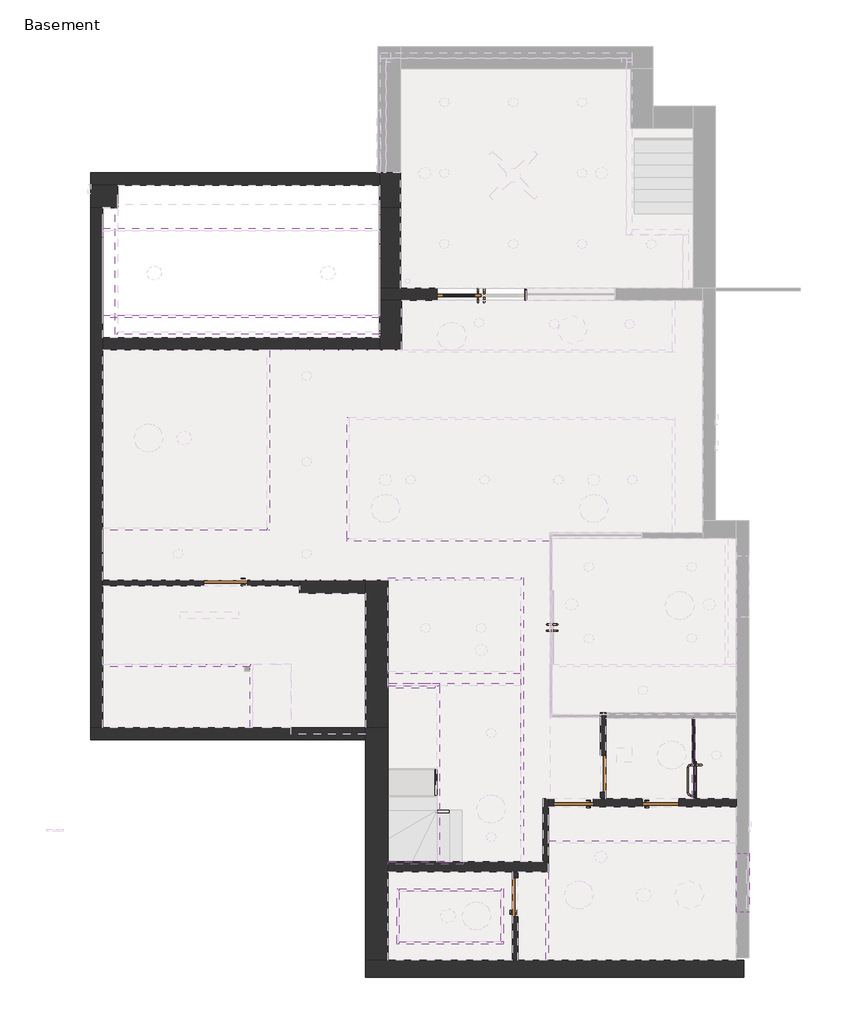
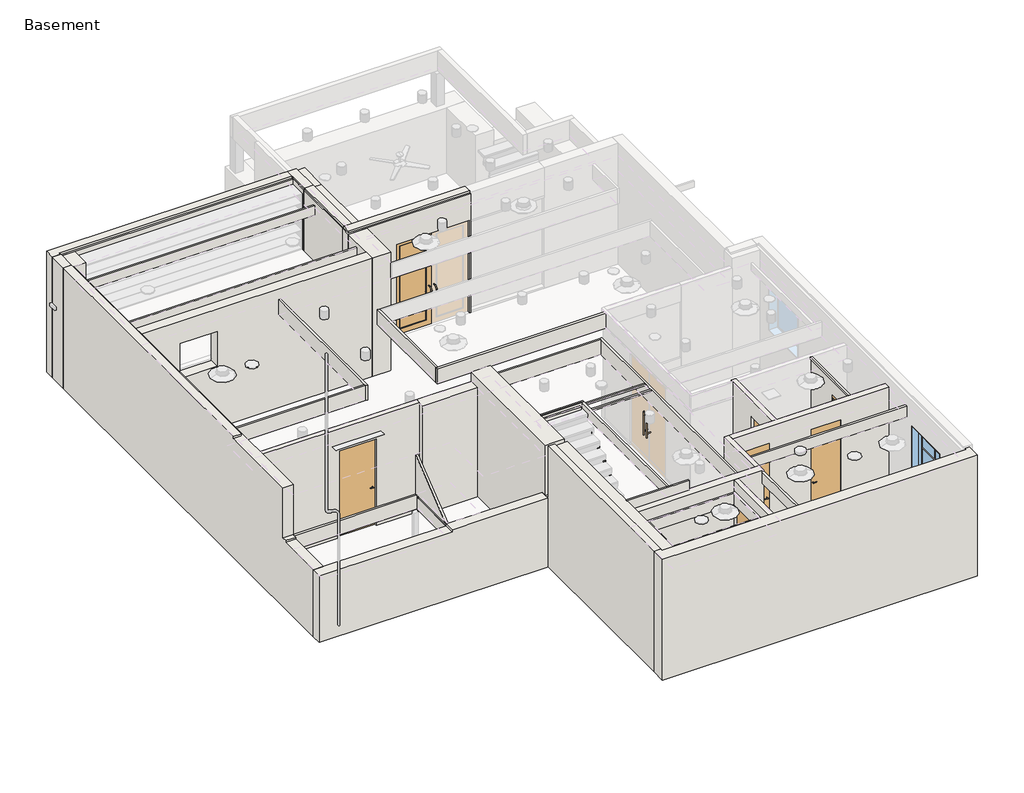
# One storey, part 1 of 3: 48 walls, 14 doors, 1 window.
"""IFC4 building model written with IfcOpenShell, lengths in millimetres."""

from ifc_helpers import new_model, si_unit, frame, origin, place, context, project, spatial, polyline, outline, extrude, faceted_brep, transform, mapped, element, save
from components import door_63bbe5dc, door_de97ecf0, door_99daa36c, door_6469e1a2, door_98445883, door_f5256737, door_7e50a88c, door_ffea6ccb, door_1882726e, door_de8d7ad8, door_d809778b, door_ac8b4fe6, default_1_a765227e

model = new_model("IFC4")

# Units and contexts
model_context = context("Model", 3, world=origin())
ifc_project = project(units=[si_unit("LENGTHUNIT", "METRE", prefix="MILLI")], contexts=[model_context])

# Site, building, storey
site = spatial("IfcSite", under=ifc_project)
building = spatial("IfcBuilding", under=site)
storey = spatial("IfcBuildingStorey", under=building, Name="Basement", Elevation=-3175.0)

# Doors
placement = place(None, origin())
door_shape = door_63bbe5dc(model_context)
element("IfcDoor", 1, ObjectType="Planitar - Swap_Flush Panel : Planitar - Swap_Flush Panel", at=placement, inside=storey, context=model_context, shape_type="MappedRepresentation", body=[
    mapped(door_shape, transform((16812.5017773, 865.0979214, -3175.0), x_axis=(0.0, 1.0, 0.0), y_axis=(-1.0, 0.0, 0.0), z_axis=(0.0, 0.0, 1.0))),
])
element("IfcDoor", 2, ObjectType="Planitar - Swap_Flush Panel : Planitar - Swap_Flush Panel", at=placement, inside=storey, context=model_context, shape_type="MappedRepresentation", body=[
    mapped(door_shape, transform((18050.7517773, 2799.0909405, -3175.0), x_axis=(-1.0, 0.0, 0.0), y_axis=(0.0, -1.0, 0.0), z_axis=(0.0, 0.0, 1.0))),
])
door_2_shape = door_de97ecf0(model_context)
element("IfcDoor", 3, ObjectType="Planitar - Swap_Flush Panel : Planitar - Swap_Flush Panel", at=placement, inside=storey, context=model_context, shape_type="MappedRepresentation", body=[
    mapped(door_2_shape, transform((19854.1517773, 2799.0909405, -3175.0), x_axis=(1.0, 0.0, 0.0), y_axis=(0.0, 1.0, 0.0), z_axis=(0.0, 0.0, 1.0))),
])
door_3_shape = door_99daa36c(model_context)
element("IfcDoor", 4, ObjectType="Planitar - Swap_Flush Panel : Planitar - Swap_Flush Panel", at=placement, inside=storey, context=model_context, shape_type="MappedRepresentation", body=[
    mapped(door_3_shape, transform((18692.1017773, 3421.3909405, -3175.0), x_axis=(0.0, -1.0, 0.0), y_axis=(1.0, 0.0, 0.0), z_axis=(0.0, 0.0, 1.0))),
])
door_4_shape = door_6469e1a2(model_context)
element("IfcDoor", 5, ObjectType="Planitar - Swap_Full Glass_Panel_D2 : Planitar - Swap_Full Glass_Panel_D2", at=placement, inside=storey, context=model_context, shape_type="MappedRepresentation", body=[
    mapped(door_4_shape, transform((20565.3517773, 3288.0409405, -3175.0), x_axis=(0.0, -1.0, 0.0), y_axis=(1.0, 0.0, 0.0), z_axis=(0.0, 0.0, 1.0))),
])
door_5_shape = door_98445883(model_context)
element("IfcDoor", 6, ObjectType="Planitar - Swap_Flush Panel : Planitar - Swap_Flush Panel", at=placement, inside=storey, context=model_context, shape_type="MappedRepresentation", body=[
    mapped(door_5_shape, transform((10843.5017773, 7396.4909405, -3175.0), x_axis=(-1.0, 0.0, 0.0), y_axis=(0.0, -1.0, 0.0), z_axis=(0.0, 0.0, 1.0))),
])
door_6_shape = door_f5256737(model_context)
element("IfcDoor", 7, ObjectType="Planitar - Swap_Full Glass_Panel : Planitar - Swap_Full Glass_Panel", at=placement, inside=storey, context=model_context, shape_type="MappedRepresentation", body=[
    mapped(door_6_shape, transform((15675.8517773, 13327.3909405, -3175.0), x_axis=(-1.0, 0.0, 0.0), y_axis=(0.0, -1.0, 0.0), z_axis=(0.0, 0.0, 1.0))),
])
door_7_shape = door_7e50a88c(model_context)
element("IfcDoor", 8, ObjectType="Planitar - Single Door_Swapper : 7'-6\" x 3'-0\"", at=placement, inside=storey, context=model_context, shape_type="MappedRepresentation", body=[
    mapped(door_7_shape, transform((10843.5017773, 7371.0909405, -3175.0), x_axis=(-1.0, 0.0, 0.0), y_axis=(0.0, -1.0, 0.0), z_axis=(0.0, 0.0, 1.0))),
])
door_8_shape = door_ffea6ccb(model_context)
element("IfcDoor", 9, ObjectType="Planitar - Single Door_Swapper : 8'-0\" x 2'-6\"", at=placement, inside=storey, context=model_context, shape_type="MappedRepresentation", body=[
    mapped(door_8_shape, transform((19854.1517773, 2824.4909405, -3175.0), x_axis=(1.0, 0.0, 0.0), y_axis=(0.0, 1.0, 0.0), z_axis=(0.0, 0.0, 1.0))),
])
door_9_shape = door_1882726e(model_context)
element("IfcDoor", 10, ObjectType="Planitar - Single Door_Swapper : 8'-0\" x 2'-6\"", at=placement, inside=storey, context=model_context, shape_type="MappedRepresentation", body=[
    mapped(door_9_shape, transform((20539.9517773, 3288.0409405, -3175.0), x_axis=(0.0, -1.0, 0.0), y_axis=(1.0, 0.0, 0.0), z_axis=(0.0, 0.0, 1.0))),
])
door_10_shape = door_de8d7ad8(model_context)
element("IfcDoor", 11, ObjectType="Planitar - Single Door_Swapper : 8'-0\" x 2'-8\"", at=placement, inside=storey, context=model_context, shape_type="MappedRepresentation", body=[
    mapped(door_10_shape, transform((18050.7517773, 2824.4909405, -3175.0), x_axis=(-1.0, 0.0, 0.0), y_axis=(0.0, -1.0, 0.0), z_axis=(0.0, 0.0, 1.0))),
])
element("IfcDoor", 12, ObjectType="Planitar - Single Door_Swapper : 8'-0\" x 2'-8\"", at=placement, inside=storey, context=model_context, shape_type="MappedRepresentation", body=[
    mapped(door_10_shape, transform((16837.9017773, 865.0979214, -3175.0), x_axis=(0.0, 1.0, 0.0), y_axis=(-1.0, 0.0, 0.0), z_axis=(0.0, 0.0, 1.0))),
])
door_11_shape = door_d809778b(model_context)
element("IfcDoor", 13, ObjectType="Planitar -Double Door_Swapper : 8'-0\" x 5'-0\"", at=placement, inside=storey, context=model_context, shape_type="MappedRepresentation", body=[
    mapped(door_11_shape, transform((17580.8517773, 5840.7409405, -3175.0), x_axis=(0.0, -1.0, 0.0), y_axis=(1.0, 0.0, 0.0), z_axis=(0.0, 0.0, 1.0))),
])
door_12_shape = door_ac8b4fe6(model_context)
element("IfcDoor", 14, ObjectType="Planitar -Double Door_Swapper : 8'-0\" x 6'-0\"", at=placement, inside=storey, context=model_context, shape_type="MappedRepresentation", body=[
    mapped(door_12_shape, transform((15523.4517773, 13352.7909405, -3175.0), x_axis=(-1.0, 0.0, 0.0), y_axis=(0.0, -1.0, 0.0), z_axis=(0.0, 0.0, 1.0))),
])

# Walls
element("IfcWall", 15, ObjectType="Planitar - Generic 1' - 2\"", at=placement, inside=storey, context=model_context, shape_type="Brep", body=[
    faceted_brep([(21574.9049773, -439.4090595, -3175.0), (21549.6017773, -439.4090595, -3175.0), (16895.0517773, -439.4090595, -3175.0), (16780.7517773, -439.4090595, -3175.0), (14208.8081773, -439.4090595, -3175.0), (13738.9081773, -439.4090595, -3175.0), (13738.9081773, -439.4090595, 0.0), (13904.0081773, -439.4090595, 0.0), (13904.0081773, -439.4090595, -50.8), (14208.8081773, -439.4090595, -50.8), (21473.3049773, -439.4090595, -50.8), (21473.3049773, -439.4090595, 0.0), (21549.6017773, -439.4090595, 0.0), (21574.9049773, -439.4090595, 0.0), (13738.9081773, -795.0090595, -3175.0), (21574.9049773, -795.0090595, -3175.0), (21574.9049773, -795.0090595, 0.0), (21473.3049773, -795.0090595, 0.0), (16459.0569509, -795.0090595, 0.0), (14985.8569509, -795.0090595, 0.0), (13738.9081773, -795.0090595, 0.0), (21473.3049773, -490.2090595, 0.0), (13904.0081773, -490.2090595, 0.0), (13738.9081773, -490.2090595, 0.0), (13904.0081773, -490.2090595, -50.8), (21473.3049773, -490.2090595, -50.8)], [[[0, 1, 2, 3, 4, 5, 6, 7, 8, 9, 10, 11, 12, 13]], [[14, 15, 16, 17, 18, 19, 20]], [[5, 4, 3, 2, 1, 0, 15, 14]], [[20, 19, 18, 17, 16, 13, 12, 11, 21, 22, 7, 6, 23]], [[0, 13, 16, 15]], [[5, 14, 20, 23, 6]], [[24, 25, 10, 9, 8]], [[25, 24, 22, 21]], [[22, 24, 8, 7]], [[25, 21, 11, 10]]]),
])
element("IfcWall", 16, ObjectType="Planitar - Generic 1' - 6 1/2\"", at=placement, inside=storey, context=model_context, shape_type="Brep", body=[
    faceted_brep([(14208.8081773, -439.4090595, -3175.0), (14208.8081773, 1395.7409405, -3175.0), (14208.8081773, 1598.9409405, -3175.0), (14208.8081773, 4380.2409405, -3175.0), (14208.8081773, 4380.2409405, -1371.6), (14208.8081773, 4240.5409405, -1371.6), (14208.8081773, 4126.2409405, -1371.6), (14208.8081773, 4126.2409405, -50.8), (14208.8081773, -439.4090595, -50.8), (13738.9081773, 4380.2409405, -3175.0), (13738.9081773, 4126.2409405, -3175.0), (13738.9081773, -439.4090595, -3175.0), (13738.9081773, -439.4090595, 0.0), (13738.9081773, 4126.2409405, 0.0), (13738.9081773, 4126.2409405, -1371.6), (13738.9081773, 4240.5409405, -1371.6), (13738.9081773, 4380.2409405, -1371.6), (13904.0081773, -439.4090595, 0.0), (13904.0081773, 4126.2409405, 0.0), (13904.0081773, -439.4090595, -50.8), (13904.0081773, 4126.2409405, -50.8)], [[[0, 1, 2, 3, 4, 5, 6, 7, 8]], [[9, 10, 11, 12, 13, 14, 15, 16]], [[3, 2, 1, 0, 11, 10, 9]], [[13, 12, 17, 18]], [[11, 0, 8, 19, 17, 12]], [[6, 5, 4, 16, 15, 14]], [[6, 14, 13, 18, 20, 7]], [[4, 3, 9, 16]], [[20, 19, 8, 7]], [[19, 20, 18, 17]]]),
])
element("IfcWall", 17, ObjectType="Planitar - Generic 10\"", at=placement, inside=storey, context=model_context, shape_type="Brep", body=[
    faceted_brep([(8043.1517773, 4126.2409405, -3175.0), (13738.9081773, 4126.2409405, -3175.0), (13738.9081773, 4126.2409405, -1422.4), (13738.9081773, 4126.2409405, -1371.6), (12086.5517773, 4126.2409405, -1371.6), (11349.9517773, 4126.2409405, -1371.6), (11349.9517773, 4126.2409405, -1422.4), (8043.1517773, 4126.2409405, -1422.4), (13738.9081773, 4380.2409405, -3175.0), (8297.1517773, 4380.2409405, -3175.0), (8043.1517773, 4380.2409405, -3175.0), (8043.1517773, 4380.2409405, -1422.4), (8297.1517773, 4380.2409405, -1422.4), (11349.9517773, 4380.2409405, -1422.4), (11349.9517773, 4380.2409405, -1371.6), (13738.9081773, 4380.2409405, -1371.6)], [[[0, 1, 2, 3, 4, 5, 6, 7]], [[8, 9, 10, 11, 12, 13, 14, 15]], [[1, 0, 10, 9, 8]], [[3, 15, 14, 5, 4]], [[10, 0, 7, 11]], [[1, 8, 15, 3, 2]], [[6, 13, 12, 11, 7]], [[13, 6, 5, 14]]]),
])
element("IfcWall", 18, ObjectType="Planitar - Generic 1' - 5\"", at=placement, inside=storey, context=model_context, shape_type="SweptSolid", body=[
    extrude(outline(polyline([(-3175.0, 14027.2174773), (-3175.0, 14459.0174773), (-50.8, 14459.0174773), (-50.8, 14253.4517773), (0.0, 14253.4517773), (0.0, 14050.2517773), (-50.8, 14050.2517773), (-50.8, 14027.2174773), (-3175.0, 14027.2174773)])), frame((0.0, 13479.7909405, 0.0), z_axis=(0.0, 1.0, 0.0), x_axis=(0.0, 0.0, 1.0)), (0.0, 0.0, 1.0), 1664.5554),
])
element("IfcWall", 19, ObjectType="Planitar - Generic 10\"", at=placement, inside=storey, context=model_context, shape_type="Brep", body=[
    faceted_brep([(14027.2174773, 15867.3909405, -3175.0), (14001.8174773, 15867.3909405, -3175.0), (8043.1517773, 15867.3909405, -3175.0), (8043.1517773, 15867.3909405, 0.0), (13974.0517773, 15867.3909405, 0.0), (14027.2174773, 15867.3909405, 0.0), (8043.1517773, 15613.3909405, -3175.0), (8601.9517773, 15613.3909405, -3175.0), (14027.2174773, 15613.3909405, -3175.0), (14027.2174773, 15613.3909405, -50.8), (8601.9517773, 15613.3909405, -50.8), (8246.2549773, 15613.3909405, -50.8), (8246.2549773, 15613.3909405, 0.0), (8043.1517773, 15613.3909405, 0.0), (8246.2549773, 15664.1909405, 0.0), (14027.2174773, 15664.1909405, 0.0), (14027.2174773, 15664.1909405, -50.8), (8246.2549773, 15664.1909405, -50.8)], [[[0, 1, 2, 3, 4, 5]], [[6, 7, 8, 9, 10, 11, 12, 13]], [[2, 1, 0, 8, 7, 6]], [[5, 4, 3, 13, 12, 14, 15]], [[3, 2, 6, 13]], [[16, 17, 11, 10, 9]], [[17, 14, 12, 11]], [[14, 17, 16, 15]], [[8, 0, 5, 15, 16, 9]]]),
])
element("IfcWall", 20, ObjectType="Planitar - Generic 1' - 10\"", at=placement, inside=storey, context=model_context, shape_type="Brep", body=[
    faceted_brep([(8043.1517773, 15613.3909405, -3175.0), (8043.1517773, 15144.3463405, -3175.0), (8043.1517773, 15144.3463405, 0.0), (8043.1517773, 15613.3909405, 0.0), (8601.9517773, 15144.3463405, -3175.0), (8601.9517773, 15613.3909405, -3175.0), (8601.9517773, 15613.3909405, -50.8), (8601.9517773, 15144.3463405, -50.8), (8297.1517773, 15144.3463405, -3175.0), (8297.1517773, 15144.3463405, -50.8), (8246.2549773, 15144.3463405, -50.8), (8246.2549773, 15144.3463405, 0.0), (8246.2549773, 15613.3909405, 0.0), (8246.2549773, 15613.3909405, -50.8)], [[[0, 1, 2, 3]], [[4, 5, 6, 7]], [[1, 0, 5, 4, 8]], [[2, 1, 8, 4, 7, 9, 10, 11]], [[3, 2, 11, 12]], [[0, 3, 12, 13, 6, 5]], [[13, 10, 9, 7, 6]], [[10, 13, 12, 11]]]),
])
element("IfcWall", 21, ObjectType="Planitar - Generic 4 1/2\"", at=placement, inside=storey, context=model_context, shape_type="SweptSolid", body=[
    extrude(outline(polyline([(-3175.0, 12373.8517773), (-304.8, 12373.8517773), (-304.8, 8297.1517773), (-3175.0, 8297.1517773), (-3175.0, 10386.3017773), (-889.0, 10386.3017773), (-889.0, 11300.7017773), (-3175.0, 11300.7017773), (-3175.0, 12373.8517773)])), frame((0.0, 7313.9409405, 0.0), z_axis=(0.0, 1.0, 0.0), x_axis=(0.0, 0.0, 1.0)), (0.0, 0.0, 1.0), 114.3),
])
element("IfcWall", 22, ObjectType="Planitar - Generic 1' - 6\"", at=placement, inside=storey, context=model_context, shape_type="Brep", body=[
    faceted_brep([(14027.2174773, 13225.7909405, -3175.0), (14027.2174773, 12457.4409405, -3175.0), (14027.2174773, 12203.4409405, -3175.0), (14027.2174773, 12203.4409405, -50.8), (14027.2174773, 12457.4409405, -50.8), (14027.2174773, 13225.7909405, -50.8), (14484.4174773, 13225.7909405, -3175.0), (14484.4174773, 13225.7909405, -50.8), (14484.4174773, 12203.4409405, -50.8), (14484.4174773, 12203.4409405, -3175.0)], [[[0, 1, 2, 3, 4, 5]], [[6, 7, 8, 9]], [[2, 1, 0, 6, 9]], [[5, 4, 3, 8, 7]], [[0, 5, 7, 6]], [[3, 2, 9, 8]]]),
])
element("IfcWall", 23, ObjectType="Planitar - Generic 10\"", at=placement, inside=storey, context=model_context, shape_type="SweptSolid", body=[
    extrude(outline(polyline([(-3175.0, 8297.1517773), (-3175.0, 14027.2174773), (-50.8, 14027.2174773), (-50.8, 8297.1517773), (-3175.0, 8297.1517773)]), holes=[polyline([(-1549.4, 9256.0017773), (-635.0, 9256.0017773), (-635.0, 10170.4017773), (-1549.4, 10170.4017773), (-1549.4, 9256.0017773)])]), frame((0.0, 12203.4409405, 0.0), z_axis=(0.0, 1.0, 0.0), x_axis=(0.0, 0.0, 1.0)), (0.0, 0.0, 1.0), 254.0),
])
element("IfcWall", 24, ObjectType="Planitar - Generic 10\"", at=placement, inside=storey, context=model_context, shape_type="Brep", body=[
    faceted_brep([(8043.1517773, 15144.3463405, -3175.0), (8043.1517773, 4380.2409405, -3175.0), (8043.1517773, 4380.2409405, -1422.4), (8043.1517773, 5574.0409405, -1422.4), (8043.1517773, 5574.0409405, -1371.6), (8043.1517773, 5688.3409405, -1371.6), (8043.1517773, 5688.3409405, -50.8), (8043.1517773, 7824.1282405, -50.8), (8043.1517773, 7824.1282405, 0.0), (8043.1517773, 15144.3463405, 0.0), (8297.1517773, 4380.2409405, -3175.0), (8297.1517773, 7313.9409405, -3175.0), (8297.1517773, 7428.2409405, -3175.0), (8297.1517773, 12203.4409405, -3175.0), (8297.1517773, 12457.4409405, -3175.0), (8297.1517773, 15144.3463405, -3175.0), (8297.1517773, 15144.3463405, -50.8), (8297.1517773, 12457.4409405, -50.8), (8297.1517773, 12203.4409405, -50.8), (8297.1517773, 5688.3409405, -50.8), (8297.1517773, 5688.3409405, -1371.6), (8297.1517773, 5637.5409405, -1371.6), (8297.1517773, 5574.0409405, -1371.6), (8297.1517773, 5574.0409405, -1422.4), (8297.1517773, 4380.2409405, -1422.4), (8246.2549773, 7824.1282405, 0.0), (8246.2549773, 15144.3463405, 0.0), (8246.2549773, 15144.3463405, -50.8), (8246.2549773, 7824.1282405, -50.8)], [[[0, 1, 2, 3, 4, 5, 6, 7, 8, 9]], [[10, 11, 12, 13, 14, 15, 16, 17, 18, 19, 20, 21, 22, 23, 24]], [[1, 10, 24, 2]], [[1, 0, 15, 14, 13, 12, 11, 10]], [[9, 8, 25, 26]], [[0, 9, 26, 27, 16, 15]], [[20, 5, 4, 22, 21]], [[5, 20, 19, 6]], [[27, 28, 7, 6, 19, 18, 17, 16]], [[28, 25, 8, 7]], [[25, 28, 27, 26]], [[23, 3, 2, 24]], [[3, 23, 22, 4]]]),
])
element("IfcWall", 25, ObjectType="Planitar - Generic 1' - 5\"", at=placement, inside=storey, context=model_context, shape_type="Brep", body=[
    faceted_brep([(14459.0174773, 15144.3463405, -3175.0), (14459.0174773, 15867.3909405, -3175.0), (14459.0174773, 15867.3909405, -1447.8), (14459.0174773, 15867.3909405, -50.8), (14459.0174773, 15144.3463405, -50.8), (14027.2174773, 15867.3909405, -3175.0), (14027.2174773, 15613.3909405, -3175.0), (14027.2174773, 15144.3463405, -3175.0), (14027.2174773, 15144.3463405, -50.8), (14027.2174773, 15613.3909405, -50.8), (14027.2174773, 15664.1909405, -50.8), (14027.2174773, 15664.1909405, 0.0), (14027.2174773, 15867.3909405, 0.0), (14027.2174773, 15867.3909405, -50.8), (14050.1549773, 15664.1909405, 0.0), (14050.1549773, 15144.3463405, 0.0), (14253.3549773, 15144.3463405, 0.0), (14253.3549773, 15867.3909405, 0.0), (14164.5517773, 15867.3909405, 0.0), (14050.2517773, 15867.3909405, 0.0), (14253.3549773, 15144.3463405, -50.8), (14050.1549773, 15144.3463405, -50.8), (14050.1549773, 15664.1909405, -50.8), (14253.3549773, 15867.3909405, -50.8)], [[[0, 1, 2, 3, 4]], [[5, 6, 7, 8, 9, 10, 11, 12, 13]], [[1, 0, 7, 6, 5]], [[12, 11, 14, 15, 16, 17, 18, 19]], [[7, 0, 4, 20, 16, 15, 21, 8]], [[21, 22, 10, 9, 8]], [[22, 14, 11, 10]], [[14, 22, 21, 15]], [[23, 20, 4, 3]], [[20, 23, 17, 16]], [[1, 5, 13, 12, 19, 18, 17, 23, 3, 2]]]),
])
element("IfcWall", 26, ObjectType="Planitar - Generic 8\"", at=placement, inside=storey, context=model_context, shape_type="Brep", body=[
    faceted_brep([(14208.8081773, 1395.7409405, -3175.0), (16780.7517773, 1395.7409405, -3175.0), (16895.0517773, 1395.7409405, -3175.0), (17530.0517773, 1395.7409405, -3175.0), (17530.0517773, 1395.7409405, -622.3), (17530.0517773, 1395.7409405, -330.2), (17530.0517773, 1395.7409405, -304.8), (16895.0517773, 1395.7409405, -304.8), (16780.7517773, 1395.7409405, -304.8), (14208.8081773, 1395.7409405, -304.8), (14208.8081773, 1598.9409405, -3175.0), (14208.8081773, 1598.9409405, -304.8), (17415.7517773, 1598.9409405, -304.8), (17530.0517773, 1598.9409405, -304.8), (17530.0517773, 1598.9409405, -3175.0), (17415.7517773, 1598.9409405, -3175.0)], [[[0, 1, 2, 3, 4, 5, 6, 7, 8, 9]], [[10, 11, 12, 13, 14, 15]], [[3, 2, 1, 0, 10, 15, 14]], [[9, 8, 7, 6, 13, 12, 11]], [[0, 9, 11, 10]], [[3, 14, 13, 6, 5, 4]]]),
])
element("IfcWall", 27, ObjectType="Planitar - Generic 4 1/2\"", at=placement, inside=storey, context=model_context, shape_type="Brep", body=[
    faceted_brep([(17530.0517773, 1598.9409405, -304.8), (17530.0517773, 1598.9409405, -3175.0), (17530.0517773, 2741.9409405, -3175.0), (17530.0517773, 2907.0409405, -3175.0), (17530.0517773, 2907.0409405, -304.8), (17530.0517773, 2741.9409405, -304.8), (17415.7517773, 1598.9409405, -3175.0), (17415.7517773, 1598.9409405, -304.8), (17415.7517773, 2907.0409405, -304.8), (17415.7517773, 2907.0409405, -3175.0)], [[[0, 1, 2, 3, 4, 5]], [[6, 7, 8, 9]], [[3, 2, 1, 6, 9]], [[0, 5, 4, 8, 7]], [[4, 3, 9, 8]], [[0, 7, 6, 1]]]),
])
element("IfcWall", 28, ObjectType="Planitar - Generic 6 1/2\"", at=placement, inside=storey, context=model_context, shape_type="Brep", body=[
    faceted_brep([(21422.6017773, 2741.9409405, -304.8), (17530.0517773, 2741.9409405, -304.8), (17530.0517773, 2741.9409405, -3175.0), (17644.3517773, 2741.9409405, -3175.0), (17644.3517773, 2741.9409405, -736.6), (18457.1517773, 2741.9409405, -736.6), (18457.1517773, 2741.9409405, -3175.0), (19473.1517773, 2741.9409405, -3175.0), (19473.1517773, 2741.9409405, -736.6), (20235.1517773, 2741.9409405, -736.6), (20235.1517773, 2741.9409405, -3175.0), (21422.6017773, 2741.9409405, -3175.0), (17530.0517773, 2907.0409405, -304.8), (18609.5517773, 2907.0409405, -304.8), (18723.8517773, 2907.0409405, -304.8), (20514.5517773, 2907.0409405, -304.8), (20565.3517773, 2907.0409405, -304.8), (21422.6017773, 2907.0409405, -304.8), (21422.6017773, 2907.0409405, -3175.0), (20235.1517773, 2907.0409405, -3175.0), (20235.1517773, 2907.0409405, -736.6), (19473.1517773, 2907.0409405, -736.6), (19473.1517773, 2907.0409405, -3175.0), (18723.8517773, 2907.0409405, -3175.0), (18609.5517773, 2907.0409405, -3175.0), (18457.1517773, 2907.0409405, -3175.0), (18457.1517773, 2907.0409405, -736.6), (17644.3517773, 2907.0409405, -736.6), (17644.3517773, 2907.0409405, -3175.0), (17530.0517773, 2907.0409405, -3175.0)], [[[0, 1, 2, 3, 4, 5, 6, 7, 8, 9, 10, 11]], [[12, 13, 14, 15, 16, 17, 18, 19, 20, 21, 22, 23, 24, 25, 26, 27, 28, 29]], [[2, 29, 28, 3]], [[18, 11, 10, 19]], [[6, 25, 24, 23, 22, 7]], [[1, 0, 17, 16, 15, 14, 13, 12]], [[2, 1, 12, 29]], [[0, 11, 18, 17]], [[27, 4, 3, 28]], [[4, 27, 26, 5]], [[5, 26, 25, 6]], [[9, 20, 19, 10]], [[20, 9, 8, 21]], [[21, 8, 7, 22]]]),
])
element("IfcWall", 29, ObjectType="Planitar - Generic 4 1/2\"", at=placement, inside=storey, context=model_context, shape_type="SweptSolid", body=[
    extrude(outline(polyline([(-439.4090595, -304.8), (1395.7409405, -304.8), (1395.7409405, -3175.0), (1271.4979214, -3175.0), (1271.4979214, -736.6), (458.6979214, -736.6), (458.6979214, -3175.0), (-439.4090595, -3175.0), (-439.4090595, -304.8)])), frame((16780.7517773, 0.0, 0.0), z_axis=(1.0, 0.0, 0.0), x_axis=(0.0, 1.0, 0.0)), (0.0, 0.0, 1.0), 114.3),
])
element("IfcWall", 30, ObjectType="Planitar - Generic 4 1/2\"", at=placement, inside=storey, context=model_context, shape_type="Brep", body=[
    faceted_brep([(18723.8517773, 4685.0409405, -304.8), (18723.8517773, 4570.7409405, -304.8), (18723.8517773, 2907.0409405, -304.8), (18723.8517773, 2907.0409405, -3175.0), (18723.8517773, 3040.3909405, -3175.0), (18723.8517773, 3040.3909405, -736.6), (18723.8517773, 3802.3909405, -736.6), (18723.8517773, 3802.3909405, -3175.0), (18723.8517773, 4570.7409405, -3175.0), (18723.8517773, 4685.0409405, -3175.0), (18609.5517773, 2907.0409405, -304.8), (18609.5517773, 4596.1409405, -304.8), (18609.5517773, 4646.9409405, -304.8), (18609.5517773, 4685.0409405, -304.8), (18609.5517773, 4685.0409405, -3175.0), (18609.5517773, 4646.9409405, -3175.0), (18609.5517773, 4596.1409405, -3175.0), (18609.5517773, 3802.3909405, -3175.0), (18609.5517773, 3802.3909405, -736.6), (18609.5517773, 3040.3909405, -736.6), (18609.5517773, 3040.3909405, -3175.0), (18609.5517773, 2907.0409405, -3175.0)], [[[0, 1, 2, 3, 4, 5, 6, 7, 8, 9]], [[10, 11, 12, 13, 14, 15, 16, 17, 18, 19, 20, 21]], [[3, 21, 20, 4]], [[14, 9, 8, 7, 17, 16, 15]], [[2, 1, 0, 13, 12, 11, 10]], [[3, 2, 10, 21]], [[9, 14, 13, 0]], [[19, 5, 4, 20]], [[5, 19, 18, 6]], [[6, 18, 17, 7]]]),
])
element("IfcWall", 31, ObjectType="Planitar - Generic 2\"", at=placement, inside=storey, context=model_context, shape_type="Brep", body=[
    faceted_brep([(20514.5517773, 4570.7409405, -3124.2), (20514.5517773, 4570.7409405, -3175.0), (20514.5517773, 3669.0409405, -3175.0), (20514.5517773, 3669.0409405, -3124.2), (20565.3517773, 4570.7409405, -3175.0), (20565.3517773, 4570.7409405, -3124.2), (20565.3517773, 3669.0409405, -3124.2), (20565.3517773, 3669.0409405, -3175.0), (20552.6517773, 4570.7409405, -3124.2), (20527.2517773, 4570.7409405, -3124.2), (20527.2517773, 3669.0409405, -3124.2), (20552.6517773, 3669.0409405, -3124.2)], [[[0, 1, 2, 3]], [[4, 5, 6, 7]], [[1, 4, 7, 2]], [[5, 8, 9, 0, 3, 10, 11, 6]], [[1, 0, 9, 8, 5, 4]], [[3, 2, 7, 6, 11, 10]]]),
])
element("IfcWall", 32, ObjectType="Planitar - Curtain wall (Curved)", at=placement, inside=storey, context=model_context, shape_type="SweptSolid", body=[
    extrude(outline(polyline([(2907.0409405, -355.6), (4570.7409405, -355.6), (4570.7409405, -3124.2), (3669.0409405, -3124.2), (3669.0409405, -736.6), (2907.0409405, -736.6), (2907.0409405, -355.6)])), frame((20527.2517773, 0.0, 0.0), z_axis=(1.0, 0.0, 0.0), x_axis=(0.0, 1.0, 0.0)), (0.0, 0.0, 1.0), 25.4),
])
element("IfcWall", 33, ObjectType="Planitar - Generic 2\"", at=placement, inside=storey, context=model_context, shape_type="Brep", body=[
    faceted_brep([(20514.5517773, 4570.7409405, -355.6), (20514.5517773, 2907.0409405, -355.6), (20514.5517773, 2907.0409405, -304.8), (20514.5517773, 4570.7409405, -304.8), (20565.3517773, 4570.7409405, -355.6), (20565.3517773, 4570.7409405, -304.8), (20565.3517773, 2907.0409405, -304.8), (20565.3517773, 2907.0409405, -355.6), (20527.2517773, 4570.7409405, -355.6), (20552.6517773, 4570.7409405, -355.6), (20552.6517773, 2907.0409405, -355.6), (20527.2517773, 2907.0409405, -355.6)], [[[0, 1, 2, 3]], [[4, 5, 6, 7]], [[1, 0, 8, 9, 4, 7, 10, 11]], [[3, 2, 6, 5]], [[0, 3, 5, 4, 9, 8]], [[2, 1, 11, 10, 7, 6]]]),
])
element("IfcWall", 34, ObjectType="Planitar - Generic 1' - 6 1/2\"", at=placement, inside=storey, context=model_context, shape_type="Brep", body=[
    faceted_brep([(14208.8081773, 4380.2409405, -3175.0), (14208.8081773, 7428.2409405, -3175.0), (14208.8081773, 7428.2409405, -50.8), (14208.8081773, 4240.5409405, -50.8), (14208.8081773, 4240.5409405, -1371.6), (14208.8081773, 4380.2409405, -1371.6), (13738.9081773, 7428.2409405, -3175.0), (13738.9081773, 7161.5409405, -3175.0), (13738.9081773, 4380.2409405, -3175.0), (13738.9081773, 4380.2409405, -1371.6), (13738.9081773, 4240.5409405, -1371.6), (13738.9081773, 4240.5409405, -50.8), (13738.9081773, 7428.2409405, -50.8), (13738.9081773, 7428.2409405, -304.8), (13904.0081773, 4240.5409405, -50.8)], [[[0, 1, 2, 3, 4, 5]], [[6, 7, 8, 9, 10, 11, 12, 13]], [[1, 0, 8, 7, 6]], [[1, 6, 13, 12, 2]], [[10, 9, 5, 4]], [[0, 5, 9, 8]], [[10, 4, 3, 14, 11]], [[3, 2, 12, 11, 14]]]),
])
element("IfcWall", 35, ObjectType="Planitar - Generic 2\"", at=placement, inside=storey, context=model_context, shape_type="SweptSolid", body=[
    extrude(outline(polyline([(8601.9517773, 12578.0909405), (14027.2174773, 12578.0909405), (14027.2174773, 12527.2909405), (8601.9517773, 12527.2909405), (8601.9517773, 12578.0909405)])), frame((0.0, 0.0, -1651.0), z_axis=(0.0, 0.0, 1.0), x_axis=(1.0, 0.0, 0.0)), (0.0, 0.0, 1.0), 101.6),
])
element("IfcWall", 36, ObjectType="Planitar - Generic 2\"", at=placement, inside=storey, context=model_context, shape_type="Brep", body=[
    faceted_brep([(8551.1517773, 15144.3463405, -1651.0), (8551.1517773, 12527.2909405, -1651.0), (8551.1517773, 12527.2909405, -1549.4), (8551.1517773, 15144.3463405, -1549.4), (8601.9517773, 15144.3463405, -1651.0), (8601.9517773, 15144.3463405, -1549.4), (8601.9517773, 12578.0909405, -1549.4), (8601.9517773, 12527.2909405, -1549.4), (8601.9517773, 12527.2909405, -1651.0), (8601.9517773, 12578.0909405, -1651.0)], [[[0, 1, 2, 3]], [[4, 5, 6, 7, 8, 9]], [[1, 0, 4, 9, 8]], [[3, 2, 7, 6, 5]], [[0, 3, 5, 4]], [[2, 1, 8, 7]]]),
])
element("IfcWall", 37, ObjectType="Planitar - Generic 10\"", at=placement, inside=storey, context=model_context, shape_type="Brep", body=[
    faceted_brep([(17072.8517773, 13479.7909405, 0.0), (17072.8517773, 13479.7909405, -3175.0), (17047.4517773, 13479.7909405, -3175.0), (17047.4517773, 13479.7909405, -736.6), (15218.6517773, 13479.7909405, -736.6), (15218.6517773, 13479.7909405, -3175.0), (14459.0174773, 13479.7909405, -3175.0), (14027.2174773, 13479.7909405, -3175.0), (14027.2174773, 13479.7909405, -50.8), (14050.1549773, 13479.7909405, -50.8), (14050.1549773, 13479.7909405, 0.0), (14253.4517773, 13479.7909405, 0.0), (17047.4517773, 13225.7909405, -3175.0), (17072.8517773, 13225.7909405, -3175.0), (17072.8517773, 13225.7909405, -3124.2), (17072.8517773, 13225.7909405, -787.4), (17072.8517773, 13225.7909405, -736.6), (17072.8517773, 13225.7909405, -50.8), (14484.4174773, 13225.7909405, -50.8), (14027.2174773, 13225.7909405, -50.8), (14027.2174773, 13225.7909405, -3175.0), (14484.4174773, 13225.7909405, -3175.0), (15218.6517773, 13225.7909405, -3175.0), (15218.6517773, 13225.7909405, -736.6), (17047.4517773, 13225.7909405, -736.6), (14050.1549773, 13276.5909405, 0.0), (17072.8517773, 13276.5909405, 0.0), (17072.8517773, 13276.5909405, -50.8), (14050.1549773, 13276.5909405, -50.8)], [[[0, 1, 2, 3, 4, 5, 6, 7, 8, 9, 10, 11]], [[12, 13, 14, 15, 16, 17, 18, 19, 20, 21, 22, 23, 24]], [[20, 7, 6, 5, 22, 21]], [[1, 13, 12, 2]], [[0, 11, 10, 25, 26]], [[7, 20, 19, 8]], [[13, 1, 0, 26, 27, 17, 16, 15, 14]], [[28, 9, 8, 19, 18, 17, 27]], [[25, 28, 27, 26]], [[28, 25, 10, 9]], [[24, 3, 2, 12]], [[3, 24, 23, 4]], [[4, 23, 22, 5]]]),
])
element("IfcWall", 38, ObjectType="Planitar - Generic 10 1/2\"", at=placement, inside=storey, context=model_context, shape_type="Brep", body=[
    faceted_brep([(12373.8517773, 7161.5409405, -3175.0), (13738.9081773, 7161.5409405, -3175.0), (13738.9081773, 7161.5409405, -304.8), (12373.8517773, 7161.5409405, -304.8), (12373.8517773, 7428.2409405, -3175.0), (12373.8517773, 7428.2409405, -304.8), (13738.9081773, 7428.2409405, -304.8), (13738.9081773, 7428.2409405, -3175.0), (12373.8517773, 7313.9409405, -3175.0), (12373.8517773, 7313.9409405, -304.8)], [[[0, 1, 2, 3]], [[4, 5, 6, 7]], [[1, 0, 8, 4, 7]], [[3, 2, 6, 5, 9]], [[0, 3, 9, 5, 4, 8]], [[2, 1, 7, 6]]]),
])
element("IfcWall", 39, ObjectType="Planitar - Generic 2\"", at=placement, inside=storey, context=model_context, shape_type="SweptSolid", body=[
    extrude(outline(polyline([(14027.2174773, 14673.5909405), (8297.1517773, 14673.5909405), (8297.1517773, 14724.3909405), (14027.2174773, 14724.3909405), (14027.2174773, 14673.5909405)])), frame((0.0, 0.0, -419.1), z_axis=(0.0, 0.0, 1.0), x_axis=(1.0, 0.0, 0.0)), (0.0, 0.0, 1.0), 241.3),
])
element("IfcWall", 40, ObjectType="Planitar - Generic 2\"", at=placement, inside=storey, context=model_context, shape_type="SweptSolid", body=[
    extrude(outline(polyline([(8297.1517773, 12914.6409405), (14027.2174773, 12914.6409405), (14027.2174773, 12863.8409405), (8297.1517773, 12863.8409405), (8297.1517773, 12914.6409405)])), frame((0.0, 0.0, -419.1), z_axis=(0.0, 0.0, 1.0), x_axis=(1.0, 0.0, 0.0)), (0.0, 0.0, 1.0), 241.3),
])
element("IfcWall", 41, ObjectType="Planitar - Generic 2\"", at=placement, inside=storey, context=model_context, shape_type="Brep", body=[
    faceted_brep([(14386.8017773, 1040.1409405, -622.3), (14386.8017773, -109.2090595, -622.3), (14386.8017773, -109.2090595, -330.2), (14386.8017773, 1040.1409405, -330.2), (14437.6017773, 1040.1409405, -622.3), (14437.6017773, 1040.1409405, -330.2), (14437.6017773, 989.3409405, -330.2), (14437.6017773, -58.4090595, -330.2), (14437.6017773, -109.2090595, -330.2), (14437.6017773, -109.2090595, -622.3), (14437.6017773, -58.4090595, -622.3), (14437.6017773, 989.3409405, -622.3)], [[[0, 1, 2, 3]], [[4, 5, 6, 7, 8, 9, 10, 11]], [[1, 0, 4, 11, 10, 9]], [[3, 2, 8, 7, 6, 5]], [[2, 1, 9, 8]], [[0, 3, 5, 4]]]),
])
element("IfcWall", 42, ObjectType="Planitar - Generic 2\"", at=placement, inside=storey, context=model_context, shape_type="Brep", body=[
    faceted_brep([(14437.6017773, -109.2090595, -622.3), (16596.6017773, -109.2090595, -622.3), (16596.6017773, -109.2090595, -330.2), (14437.6017773, -109.2090595, -330.2), (14437.6017773, -58.4090595, -622.3), (14437.6017773, -58.4090595, -330.2), (16545.8017773, -58.4090595, -330.2), (16596.6017773, -58.4090595, -330.2), (16596.6017773, -58.4090595, -622.3), (16545.8017773, -58.4090595, -622.3)], [[[0, 1, 2, 3]], [[4, 5, 6, 7, 8, 9]], [[1, 0, 4, 9, 8]], [[3, 2, 7, 6, 5]], [[0, 3, 5, 4]], [[2, 1, 8, 7]]]),
])
element("IfcWall", 43, ObjectType="Planitar - Generic 2\"", at=placement, inside=storey, context=model_context, shape_type="Brep", body=[
    faceted_brep([(16596.6017773, -58.4090595, -622.3), (16596.6017773, 1040.1409405, -622.3), (16596.6017773, 1040.1409405, -330.2), (16596.6017773, -58.4090595, -330.2), (16545.8017773, -58.4090595, -622.3), (16545.8017773, -58.4090595, -330.2), (16545.8017773, 989.3409405, -330.2), (16545.8017773, 1040.1409405, -330.2), (16545.8017773, 1040.1409405, -622.3), (16545.8017773, 989.3409405, -622.3)], [[[0, 1, 2, 3]], [[4, 5, 6, 7, 8, 9]], [[1, 0, 4, 9, 8]], [[3, 2, 7, 6, 5]], [[0, 3, 5, 4]], [[2, 1, 8, 7]]]),
])
element("IfcWall", 44, ObjectType="Planitar - Generic 2\"", at=placement, inside=storey, context=model_context, shape_type="SweptSolid", body=[
    extrude(outline(polyline([(14437.6017773, 1040.1409405), (16545.8017773, 1040.1409405), (16545.8017773, 989.3409405), (14437.6017773, 989.3409405), (14437.6017773, 1040.1409405)])), frame((0.0, 0.0, -622.3), z_axis=(0.0, 0.0, 1.0), x_axis=(1.0, 0.0, 0.0)), (0.0, 0.0, 1.0), 292.1),
])
element("IfcWall", 45, ObjectType="Planitar - Generic 2\"", at=placement, inside=storey, context=model_context, shape_type="SweptSolid", body=[
    extrude(outline(polyline([(17479.2517773, -439.4090595), (17479.2517773, 1395.7409405), (17530.0517773, 1395.7409405), (17530.0517773, -439.4090595), (17479.2517773, -439.4090595)])), frame((0.0, 0.0, -622.3), z_axis=(0.0, 0.0, 1.0), x_axis=(1.0, 0.0, 0.0)), (0.0, 0.0, 1.0), 292.1),
])
element("IfcWall", 46, ObjectType="Planitar - Generic 2\"", at=placement, inside=storey, context=model_context, shape_type="SweptSolid", body=[
    extrude(outline(polyline([(21422.6017773, 1979.9409405), (17530.0517773, 1979.9409405), (17530.0517773, 2030.7409405), (21422.6017773, 2030.7409405), (21422.6017773, 1979.9409405)])), frame((0.0, 0.0, -622.3), z_axis=(0.0, 0.0, 1.0), x_axis=(1.0, 0.0, 0.0)), (0.0, 0.0, 1.0), 292.1),
])
element("IfcWall", 47, ObjectType="Planitar - Generic 2\"", at=placement, inside=storey, context=model_context, shape_type="Brep", body=[
    faceted_brep([(17009.3517773, 1598.9409405, -723.9), (17009.3517773, 7479.0409405, -723.9), (17009.3517773, 7479.0409405, -330.2), (17009.3517773, 1598.9409405, -330.2), (16958.5517773, 1598.9409405, -723.9), (16958.5517773, 1598.9409405, -330.2), (16958.5517773, 5243.8409405, -330.2), (16958.5517773, 5294.6409405, -330.2), (16958.5517773, 5497.8409405, -330.2), (16958.5517773, 5548.6409405, -330.2), (16958.5517773, 7428.2409405, -330.2), (16958.5517773, 7479.0409405, -330.2), (16958.5517773, 7479.0409405, -723.9), (16958.5517773, 7428.2409405, -723.9)], [[[0, 1, 2, 3]], [[4, 5, 6, 7, 8, 9, 10, 11, 12, 13]], [[1, 0, 4, 13, 12]], [[3, 2, 11, 10, 9, 8, 7, 6, 5]], [[0, 3, 5, 4]], [[2, 1, 12, 11]]]),
])
element("IfcWall", 48, ObjectType="Planitar - Generic 2\"", at=placement, inside=storey, context=model_context, shape_type="SweptSolid", body=[
    extrude(outline(polyline([(14209.0017773, 7479.0409405), (16958.5517773, 7479.0409405), (16958.5517773, 7428.2409405), (14209.0017773, 7428.2409405), (14209.0017773, 7479.0409405)])), frame((0.0, 0.0, -723.9), z_axis=(0.0, 0.0, 1.0), x_axis=(1.0, 0.0, 0.0)), (0.0, 0.0, 1.0), 393.7),
])
element("IfcWall", 49, ObjectType="Planitar - Generic 2\"", at=placement, inside=storey, context=model_context, shape_type="Brep", body=[
    faceted_brep([(17555.4517773, 8291.8409405, -723.9), (13402.5517773, 8291.8409405, -723.9), (13351.7517773, 8291.8409405, -723.9), (13351.7517773, 8291.8409405, -330.2), (13402.5517773, 8291.8409405, -330.2), (17555.4517773, 8291.8409405, -330.2), (17555.4517773, 8241.0409405, -723.9), (17555.4517773, 8241.0409405, -330.2), (13351.7517773, 8241.0409405, -330.2), (13351.7517773, 8241.0409405, -723.9)], [[[0, 1, 2, 3, 4, 5]], [[6, 7, 8, 9]], [[2, 1, 0, 6, 9]], [[5, 4, 3, 8, 7]], [[3, 2, 9, 8]], [[0, 5, 7, 6]]]),
])
element("IfcWall", 50, ObjectType="Planitar - Generic 2\"", at=placement, inside=storey, context=model_context, shape_type="Brep", body=[
    faceted_brep([(13402.5517773, 8291.8409405, -723.9), (13402.5517773, 10755.6409405, -723.9), (13402.5517773, 10806.4409405, -723.9), (13402.5517773, 10806.4409405, -330.2), (13402.5517773, 10755.6409405, -330.2), (13402.5517773, 8291.8409405, -330.2), (13351.7517773, 8291.8409405, -723.9), (13351.7517773, 8291.8409405, -330.2), (13351.7517773, 10806.4409405, -330.2), (13351.7517773, 10806.4409405, -723.9)], [[[0, 1, 2, 3, 4, 5]], [[6, 7, 8, 9]], [[2, 1, 0, 6, 9]], [[5, 4, 3, 8, 7]], [[0, 5, 7, 6]], [[3, 2, 9, 8]]]),
])
element("IfcWall", 51, ObjectType="Planitar - Generic 2\"", at=placement, inside=storey, context=model_context, shape_type="Brep", body=[
    faceted_brep([(11700.7517773, 12203.4409405, -723.9), (11700.7517773, 8514.0909405, -723.9), (11700.7517773, 8463.2909405, -723.9), (11700.7517773, 8463.2909405, -330.2), (11700.7517773, 8514.0909405, -330.2), (11700.7517773, 12203.4409405, -330.2), (11751.5517773, 12203.4409405, -723.9), (11751.5517773, 12203.4409405, -330.2), (11751.5517773, 8463.2909405, -330.2), (11751.5517773, 8463.2909405, -723.9)], [[[0, 1, 2, 3, 4, 5]], [[6, 7, 8, 9]], [[2, 1, 0, 6, 9]], [[5, 4, 3, 8, 7]], [[0, 5, 7, 6]], [[3, 2, 9, 8]]]),
])
element("IfcWall", 52, ObjectType="Planitar - Generic 2\"", at=placement, inside=storey, context=model_context, shape_type="SweptSolid", body=[
    extrude(outline(polyline([(8297.1517773, 8514.0909405), (11700.7517773, 8514.0909405), (11700.7517773, 8463.2909405), (8297.1517773, 8463.2909405), (8297.1517773, 8514.0909405)])), frame((0.0, 0.0, -723.9), z_axis=(0.0, 0.0, 1.0), x_axis=(1.0, 0.0, 0.0)), (0.0, 0.0, 1.0), 393.7),
])
element("IfcWall", 53, ObjectType="Planitar - Generic 2\"", at=placement, inside=storey, context=model_context, shape_type="SweptSolid", body=[
    extrude(outline(polyline([(14215.3517773, 5294.6409405), (16958.5517773, 5294.6409405), (16958.5517773, 5243.8409405), (14215.3517773, 5243.8409405), (14215.3517773, 5294.6409405)])), frame((0.0, 0.0, -368.3), z_axis=(0.0, 0.0, 1.0), x_axis=(1.0, 0.0, 0.0)), (0.0, 0.0, 1.0), 38.1),
])
element("IfcWall", 54, ObjectType="Planitar - Generic 2\"", at=placement, inside=storey, context=model_context, shape_type="SweptSolid", body=[
    extrude(outline(polyline([(16958.5517773, 5497.8409405), (14208.8081773, 5497.8409405), (14208.8081773, 5548.6409405), (16958.5517773, 5548.6409405), (16958.5517773, 5497.8409405)])), frame((0.0, 0.0, -368.3), z_axis=(0.0, 0.0, 1.0), x_axis=(1.0, 0.0, 0.0)), (0.0, 0.0, 1.0), 38.1),
])
element("IfcWall", 55, ObjectType="Planitar - Generic 2\"", at=placement, inside=storey, context=model_context, shape_type="Brep", body=[
    faceted_brep([(11395.9517773, 4380.2409405, -1739.9), (11395.9517773, 5688.3409405, -1739.9), (11395.9517773, 5688.3409405, -331.0902774), (11395.9517773, 4380.2409405, -1371.6), (11345.1517773, 5688.3409405, -1739.9), (11345.1517773, 5637.5409405, -1739.9), (11345.1517773, 4380.2409405, -1739.9), (11345.1517773, 4380.2409405, -1422.4), (11345.1517773, 5574.0409405, -1422.4), (11345.1517773, 5574.0409405, -1371.6), (11345.1517773, 4380.2409405, -1371.6), (11345.1517773, 5688.3409405, -331.0902774), (11345.1517773, 5688.3409405, -1371.6), (11349.9517773, 4380.2409405, -1371.6), (11349.9517773, 4380.2409405, -1422.4), (11349.9517773, 5574.0409405, -1422.4), (11349.9517773, 5574.0409405, -1371.6)], [[[0, 1, 2, 3]], [[4, 5, 6, 7, 8, 9, 10, 11, 12]], [[0, 3, 13, 14, 7, 6]], [[15, 8, 7, 14]], [[16, 13, 10, 9]], [[16, 15, 14, 13]], [[15, 16, 9, 8]], [[2, 1, 4, 12, 11]], [[1, 0, 6, 5, 4]], [[3, 2, 11, 10, 13]]]),
])
element("IfcWall", 56, ObjectType="Planitar - Generic 2\"", at=placement, inside=storey, context=model_context, shape_type="SweptSolid", body=[
    extrude(outline(polyline([(8297.1517773, 5688.3409405), (11345.1517773, 5688.3409405), (11345.1517773, 5637.5409405), (8297.1517773, 5637.5409405), (8297.1517773, 5688.3409405)])), frame((0.0, 0.0, -1739.9), z_axis=(0.0, 0.0, 1.0), x_axis=(1.0, 0.0, 0.0)), (0.0, 0.0, 1.0), 368.3),
])
element("IfcWall", 57, ObjectType="Planitar - Generic 2\"", at=placement, inside=storey, context=model_context, shape_type="Brep", body=[
    faceted_brep([(14215.3517773, 5243.8409405, -317.5), (15225.0017773, 5243.8409405, -317.5), (15275.8017773, 5243.8409405, -317.5), (15275.8017773, 5243.8409405, -50.8), (15225.0017773, 5243.8409405, -50.8), (14215.3517773, 5243.8409405, -50.8), (14215.3517773, 5294.6409405, -317.5), (14215.3517773, 5294.6409405, -50.8), (15275.8017773, 5294.6409405, -50.8), (15275.8017773, 5294.6409405, -317.5)], [[[0, 1, 2, 3, 4, 5]], [[6, 7, 8, 9]], [[2, 1, 0, 6, 9]], [[5, 4, 3, 8, 7]], [[0, 5, 7, 6]], [[3, 2, 9, 8]]]),
])
element("IfcWall", 58, ObjectType="Planitar - Generic 2\"", at=placement, inside=storey, context=model_context, shape_type="SweptSolid", body=[
    extrude(outline(polyline([(15275.8017773, 5243.8409405), (15275.8017773, 1598.9409405), (15225.0017773, 1598.9409405), (15225.0017773, 5243.8409405), (15275.8017773, 5243.8409405)])), frame((0.0, 0.0, -317.5), z_axis=(0.0, 0.0, 1.0), x_axis=(1.0, 0.0, 0.0)), (0.0, 0.0, 1.0), 266.7),
])
element("IfcWall", 59, ObjectType="Planitar - Generic 2\"", at=placement, inside=storey, context=model_context, shape_type="Brep", body=[
    faceted_brep([(15765.3101773, 1598.9409405, -304.8), (14209.0017773, 1598.9409405, -304.8), (14209.0017773, 1598.9409405, -50.8), (15225.0017773, 1598.9409405, -50.8), (15275.8017773, 1598.9409405, -50.8), (15765.3101773, 1598.9409405, -50.8), (15765.3101773, 1548.1409405, -304.8), (15765.3101773, 1548.1409405, -50.8), (14209.0017773, 1548.1409405, -50.8), (14209.0017773, 1548.1409405, -304.8)], [[[0, 1, 2, 3, 4, 5]], [[6, 7, 8, 9]], [[1, 0, 6, 9]], [[2, 1, 9, 8]], [[5, 4, 3, 2, 8, 7]], [[0, 5, 7, 6]]]),
])
element("IfcWall", 60, ObjectType="Planitar - Generic 2\"", at=placement, inside=storey, context=model_context, shape_type="SweptSolid", body=[
    extrude(outline(polyline([(-3175.0, 14208.8081773), (-3175.0, 15702.3344565), (-2998.2142857, 15721.8226455), (-2998.2142857, 15439.0892455), (-2771.4285714, 15464.0892455), (-2771.4285714, 15181.9142455), (-2544.6428571, 15206.9142455), (-2544.6428571, 14208.8081773), (-3175.0, 14208.8081773)])), frame((0.0, 2614.5409405, 0.0), z_axis=(0.0, 1.0, 0.0), x_axis=(0.0, 0.0, 1.0)), (0.0, 0.0, 1.0), 50.8),
])
element("IfcWall", 61, ObjectType="Planitar - Generic 2\"", at=placement, inside=storey, context=model_context, shape_type="SweptSolid", body=[
    extrude(outline(polyline([(5006.8700352, -330.2), (5243.8409405, -330.2), (5243.8409405, -418.9315203), (2665.7409405, -2732.128353), (2665.7409405, -2544.6428571), (2708.8284723, -2544.6428571), (2683.8284723, -2317.8571429), (2966.2899583, -2317.8571429), (2941.2899583, -2091.0714286), (3223.7514443, -2091.0714286), (3198.7514443, -1864.2857143), (3481.2129303, -1864.2857143), (3456.2129303, -1637.5), (3738.6744163, -1637.5), (3713.6744163, -1410.7142857), (3996.1359023, -1410.7142857), (3971.1359023, -1183.9285714), (4253.5973883, -1183.9285714), (4228.5973883, -957.1428571), (4511.0588743, -957.1428571), (4486.0588743, -730.3571429), (4768.5203603, -730.3571429), (4743.5203603, -503.5714286), (5025.9818462, -503.5714286), (5006.8700352, -330.2)])), frame((15174.2017773, 0.0, 0.0), z_axis=(1.0, 0.0, 0.0), x_axis=(0.0, 1.0, 0.0)), (0.0, 0.0, 1.0), 50.8),
])
element("IfcWall", 62, ObjectType="Planitar - Generic 2\"", at=placement, inside=storey, context=model_context, shape_type="Brep", body=[
    faceted_brep([(14208.8081773, 5243.8409405, -120.1762085), (15174.2017773, 5243.8409405, -120.1762085), (15174.2017773, 5243.8409405, -330.2), (15174.2017773, 5243.8409405, -418.9315203), (14208.8081773, 5243.8409405, -418.9315203), (14208.8081773, 5193.0409405, -432.8039849), (15174.2017773, 5193.0409405, -432.8039849), (15174.2017773, 5193.0409405, -120.1762085), (14208.8081773, 5193.0409405, -120.1762085), (14208.8081773, 5228.379826, -432.8039849), (15174.2017773, 5228.379826, -432.8039849)], [[[0, 1, 2, 3, 4]], [[5, 6, 7, 8]], [[6, 5, 9, 10]], [[1, 0, 8, 7]], [[1, 7, 6, 10, 3, 2]], [[5, 8, 0, 4, 9]], [[4, 3, 10, 9]]]),
])

# Window
default_1_shape = default_1_a765227e(model_context)
element("IfcWindow", 63, ObjectType="Planitar-Casement-Single_Left : Default 1", at=placement, inside=storey, context=model_context, shape_type="MappedRepresentation", body=[
    mapped(default_1_shape, transform((21549.6017773, 1167.1409405, -2870.2), x_axis=(0.0, -1.0, 0.0), y_axis=(1.0, 0.0, 0.0), z_axis=(0.0, 0.0, 1.0))),
])

save(model, "model.ifc")
